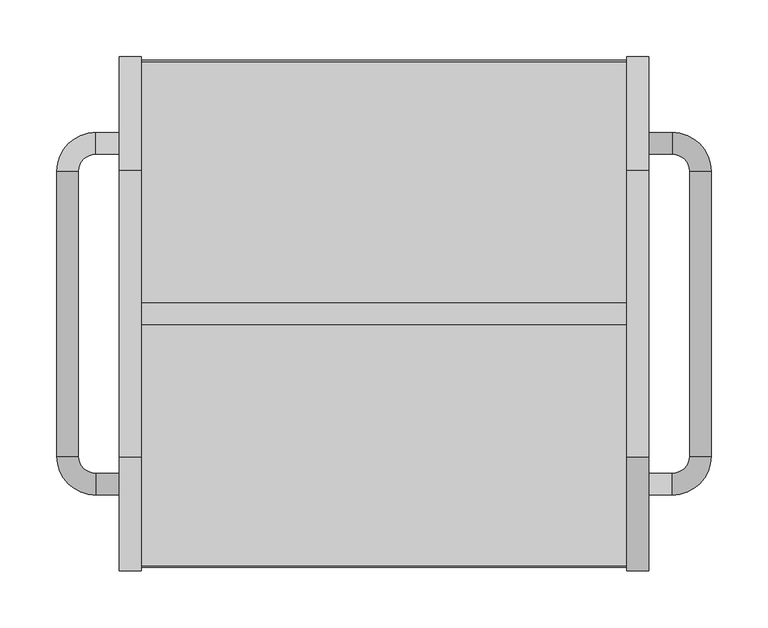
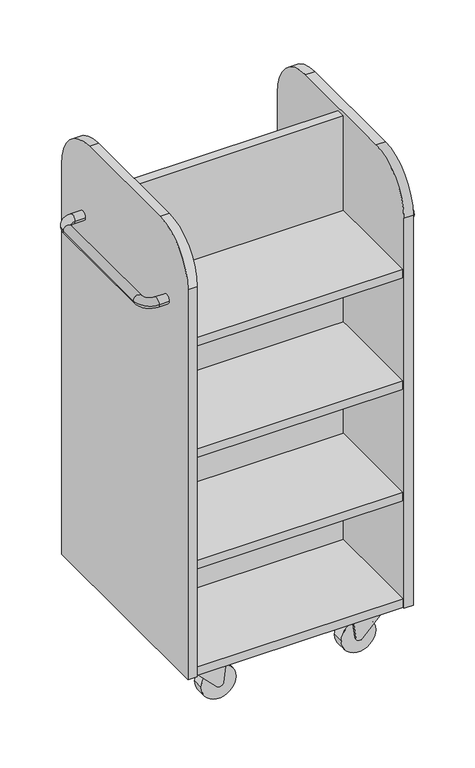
"""IFC4 building model written with IfcOpenShell, lengths in millimetres: furniture geometry, BK Library - Rondus - Book Trolley : BK Library - Rondus - Book Trolley."""

from ifc_helpers import new_model, si_unit, point, frame, frame_2d, origin, place, context, project, spatial, polyline, circle_curve, ellipse_curve, trimmed, segment, composite_curve, outline, extrude, source, transform, mapped, element, save
from ifc_brep_helpers import plane_surface, cylinder_surface, revolved_surface, advanced_brep


def furniture_b9f6d223(model_context):
    return source(origin(), model_context, "Body", "SolidModel", [
        extrude(outline(composite_curve([segment(polyline([(-225.9999765, 97.0), (-225.9999765, 947.0075684)]), True, "CONTINUOUS"), segment(trimmed(circle_curve(frame_2d((-125.9999765, 947.0075684)), 100.0), [point((-225.9999765, 947.0075684))], [point((-125.9999765, 1047.0075684))], False, "CARTESIAN"), True, "CONTINUOUS"), segment(polyline([(-125.9999765, 1047.0075684), (126.0000235, 1047.0075684)]), True, "CONTINUOUS"), segment(trimmed(circle_curve(frame_2d((126.0000235, 947.0075684)), 100.0), [point((126.0000235, 1047.0075684))], [point((226.0000235, 947.0075684))], False, "CARTESIAN"), True, "CONTINUOUS"), segment(polyline([(226.0000235, 947.0075684), (226.0000235, 97.0), (-225.9999765, 97.0)]), True, "CONTINUOUS")], self_intersect=False)), frame((213.5, 0.0, 0.0), z_axis=(1.0, 0.0, 0.0), x_axis=(0.0, 1.0, 0.0)), (0.0, 0.0, 1.0), 19.0),
        advanced_brep(
        [(232.5, 140.4384335, 882.0008812), (232.5, 159.4384335, 882.0008812), (253.5383998, 159.4384335, 882.0008812), (253.5383998, 140.4384335, 882.0008812), (268.5383998, 125.4384335, 882.0008812), (287.5383998, 125.4384335, 882.0008812), (287.5383998, -125.4384335, 882.0008812), (268.5383998, -125.4384335, 882.0008812), (253.5383998, -140.4384335, 882.0008812), (253.5383998, -159.4384335, 882.0008812), (232.5, -140.4384335, 882.0008812), (232.5, -159.4384335, 882.0008812)],
        [
            (0, 1, circle_curve(frame((232.5, 149.9384335, 882.0008812), z_axis=(-1.0, 0.0, 0.0), x_axis=(0.0, 1.0, 0.0)), 9.5)),
            (1, 0, circle_curve(frame((232.5, 149.9384335, 882.0008812), z_axis=(-1.0, 0.0, 0.0), x_axis=(0.0, 1.0, 0.0)), 9.5)),
            (1, 2),
            (2, 3, circle_curve(frame((253.5383998, 149.9384335, 882.0008812), z_axis=(-1.0, 0.0, 0.0), x_axis=(0.0, 1.0, 0.0)), 9.5)),
            (3, 0),
            (3, 2, circle_curve(frame((253.5383998, 149.9384335, 882.0008812), z_axis=(-1.0, 0.0, 0.0), x_axis=(0.0, 1.0, 0.0)), 9.5)),
            (4, 3, circle_curve(frame((253.5383998, 125.4384335, 882.0008812), z_axis=(0.0, 0.0, 1.0), x_axis=(0.0, 1.0, 0.0)), 15.0)),
            (2, 5, circle_curve(frame((253.5383998, 125.4384335, 882.0008812), z_axis=(0.0, 0.0, -1.0), x_axis=(0.0, 1.0, 0.0)), 34.0)),
            (5, 4, circle_curve(frame((278.0383998, 125.4384335, 882.0008812), z_axis=(0.0, 1.0, 0.0), x_axis=(1.0, 0.0, 0.0)), 9.5)),
            (4, 5, circle_curve(frame((278.0383998, 125.4384335, 882.0008812), z_axis=(0.0, 1.0, 0.0), x_axis=(1.0, 0.0, 0.0)), 9.5)),
            (5, 6),
            (6, 7, circle_curve(frame((278.0383998, -125.4384335, 882.0008812), z_axis=(0.0, 1.0, 0.0), x_axis=(1.0, 0.0, 0.0)), 9.5)),
            (7, 4),
            (7, 6, circle_curve(frame((278.0383998, -125.4384335, 882.0008812), z_axis=(0.0, 1.0, 0.0), x_axis=(1.0, 0.0, 0.0)), 9.5)),
            (8, 7, circle_curve(frame((253.5383998, -125.4384335, 882.0008812), z_axis=(0.0, 0.0, 1.0), x_axis=(1.0, 0.0, 0.0)), 15.0)),
            (6, 9, circle_curve(frame((253.5383998, -125.4384335, 882.0008812), z_axis=(0.0, 0.0, -1.0), x_axis=(1.0, 0.0, 0.0)), 34.0)),
            (9, 8, circle_curve(frame((253.5383998, -149.9384335, 882.0008812), z_axis=(1.0, 0.0, 0.0), x_axis=(0.0, -1.0, 0.0)), 9.5)),
            (8, 9, circle_curve(frame((253.5383998, -149.9384335, 882.0008812), z_axis=(1.0, 0.0, 0.0), x_axis=(0.0, -1.0, 0.0)), 9.5)),
            (10, 11, circle_curve(frame((232.5, -149.9384335, 882.0008812), z_axis=(-1.0, 0.0, 0.0), x_axis=(0.0, -1.0, 0.0)), 9.5)),
            (11, 10, circle_curve(frame((232.5, -149.9384335, 882.0008812), z_axis=(-1.0, 0.0, 0.0), x_axis=(0.0, -1.0, 0.0)), 9.5)),
            (9, 11),
            (10, 8),
        ],
        [
            plane_surface(frame((232.5, 140.4384335, 0.0), z_axis=(-1.0, 0.0, 0.0), x_axis=(0.0, 0.0, 1.0))),
            cylinder_surface(frame((232.5, 149.9384335, 882.0008812), z_axis=(-1.0, 0.0, 0.0), x_axis=(0.0, 1.0, 0.0)), 9.5),
            revolved_surface(trimmed(ellipse_curve(frame((253.5383998, 149.9384335, 882.0008812), z_axis=(-1.0, 0.0, 0.0), x_axis=(0.0, 1.0, 0.0)), 9.5, 9.5), [point((253.5383998, 159.4384335, 882.0008812))], [point((253.5383998, 140.4384335, 882.0008812))], True, "CARTESIAN"), (253.5383998, 125.4384335, 0.0), (0.0, 0.0, -1.0)),
            revolved_surface(trimmed(ellipse_curve(frame((253.5383998, 149.9384335, 882.0008812), z_axis=(-1.0, 0.0, 0.0), x_axis=(0.0, 1.0, 0.0)), 9.5, 9.5), [point((253.5383998, 140.4384335, 882.0008812))], [point((253.5383998, 159.4384335, 882.0008812))], True, "CARTESIAN"), (253.5383998, 125.4384335, 0.0), (0.0, 0.0, -1.0)),
            cylinder_surface(frame((278.0383998, 125.4384335, 882.0008812), z_axis=(0.0, 1.0, 0.0), x_axis=(1.0, 0.0, 0.0)), 9.5),
            revolved_surface(trimmed(ellipse_curve(frame((278.0383998, -125.4384335, 882.0008812), z_axis=(0.0, 1.0, 0.0), x_axis=(1.0, 0.0, 0.0)), 9.5, 9.5), [point((287.5383998, -125.4384335, 882.0008812))], [point((268.5383998, -125.4384335, 882.0008812))], True, "CARTESIAN"), (253.5383998, -125.4384335, 0.0), (0.0, 0.0, -1.0)),
            revolved_surface(trimmed(ellipse_curve(frame((278.0383998, -125.4384335, 882.0008812), z_axis=(0.0, 1.0, 0.0), x_axis=(1.0, 0.0, 0.0)), 9.5, 9.5), [point((268.5383998, -125.4384335, 882.0008812))], [point((287.5383998, -125.4384335, 882.0008812))], True, "CARTESIAN"), (253.5383998, -125.4384335, 0.0), (0.0, 0.0, -1.0)),
            plane_surface(frame((232.5, -140.4384335, 0.0), z_axis=(-1.0, 0.0, 0.0), x_axis=(0.0, 0.0, 1.0))),
            cylinder_surface(frame((253.5383998, -149.9384335, 882.0008812), z_axis=(1.0, 0.0, 0.0), x_axis=(0.0, -1.0, 0.0)), 9.5),
        ],
        [
            (0, [[1, 2]]),
            (1, [[-2, 3, 4, 5]]),
            (1, [[-1, -5, 6, -3]]),
            (2, [[7, -4, 8, 9]]),
            (3, [[-8, -6, -7, 10]]),
            (4, [[-9, 11, 12, 13]]),
            (4, [[-10, -13, 14, -11]]),
            (5, [[15, -12, 16, 17]]),
            (6, [[-16, -14, -15, 18]]),
            (7, [[19, 20]]),
            (8, [[-17, 21, -19, 22]]),
            (8, [[-18, -22, -20, -21]]),
        ],
    ),
        advanced_brep(
        [(-232.5, 159.4384335, 882.0008812), (-232.5, 140.4384335, 882.0008812), (-253.5383998, 159.4384335, 882.0008812), (-253.5383998, 140.4384335, 882.0008812), (-268.5383998, 125.4384335, 882.0008812), (-287.5383998, 125.4384335, 882.0008812), (-287.5383998, -125.4384335, 882.0008812), (-268.5383998, -125.4384335, 882.0008812), (-253.5383998, -140.4384335, 882.0008812), (-253.5383998, -159.4384335, 882.0008812), (-232.5, -159.4384335, 882.0008812), (-232.5, -140.4384335, 882.0008812)],
        [
            (0, 1, circle_curve(frame((-232.5, 149.9384335, 882.0008812), z_axis=(1.0, 0.0, 0.0), x_axis=(0.0, -1.0, 0.0)), 9.5)),
            (1, 0, circle_curve(frame((-232.5, 149.9384335, 882.0008812), z_axis=(1.0, 0.0, 0.0), x_axis=(0.0, -1.0, 0.0)), 9.5)),
            (0, 2),
            (2, 3, circle_curve(frame((-253.5383998, 149.9384335, 882.0008812), z_axis=(1.0, 0.0, 0.0), x_axis=(0.0, -1.0, 0.0)), 9.5)),
            (3, 1),
            (3, 2, circle_curve(frame((-253.5383998, 149.9384335, 882.0008812), z_axis=(1.0, 0.0, 0.0), x_axis=(0.0, -1.0, 0.0)), 9.5)),
            (4, 3, circle_curve(frame((-253.5383998, 125.4384335, 882.0008812), z_axis=(0.0, 0.0, -1.0), x_axis=(0.0, 1.0, 0.0)), 15.0)),
            (2, 5, circle_curve(frame((-253.5383998, 125.4384335, 882.0008812), z_axis=(0.0, 0.0, 1.0), x_axis=(0.0, 1.0, 0.0)), 34.0)),
            (5, 4, circle_curve(frame((-278.0383998, 125.4384335, 882.0008812), z_axis=(0.0, 1.0, 0.0), x_axis=(1.0, 0.0, 0.0)), 9.5)),
            (4, 5, circle_curve(frame((-278.0383998, 125.4384335, 882.0008812), z_axis=(0.0, 1.0, 0.0), x_axis=(1.0, 0.0, 0.0)), 9.5)),
            (5, 6),
            (6, 7, circle_curve(frame((-278.0383998, -125.4384335, 882.0008812), z_axis=(0.0, 1.0, 0.0), x_axis=(1.0, 0.0, 0.0)), 9.5)),
            (7, 4),
            (7, 6, circle_curve(frame((-278.0383998, -125.4384335, 882.0008812), z_axis=(0.0, 1.0, 0.0), x_axis=(1.0, 0.0, 0.0)), 9.5)),
            (8, 7, circle_curve(frame((-253.5383998, -125.4384335, 882.0008812), z_axis=(0.0, 0.0, -1.0), x_axis=(-1.0, 0.0, 0.0)), 15.0)),
            (6, 9, circle_curve(frame((-253.5383998, -125.4384335, 882.0008812), z_axis=(0.0, 0.0, 1.0), x_axis=(-1.0, 0.0, 0.0)), 34.0)),
            (9, 8, circle_curve(frame((-253.5383998, -149.9384335, 882.0008812), z_axis=(-1.0, 0.0, 0.0), x_axis=(0.0, 1.0, 0.0)), 9.5)),
            (8, 9, circle_curve(frame((-253.5383998, -149.9384335, 882.0008812), z_axis=(-1.0, 0.0, 0.0), x_axis=(0.0, 1.0, 0.0)), 9.5)),
            (10, 11, circle_curve(frame((-232.5, -149.9384335, 882.0008812), z_axis=(1.0, 0.0, 0.0), x_axis=(0.0, 1.0, 0.0)), 9.5)),
            (11, 10, circle_curve(frame((-232.5, -149.9384335, 882.0008812), z_axis=(1.0, 0.0, 0.0), x_axis=(0.0, 1.0, 0.0)), 9.5)),
            (9, 10),
            (11, 8),
        ],
        [
            plane_surface(frame((-232.5, 140.4384335, 0.0), z_axis=(1.0, 0.0, 0.0), x_axis=(0.0, 0.0, 1.0))),
            cylinder_surface(frame((-232.5, 149.9384335, 882.0008812), z_axis=(1.0, 0.0, 0.0), x_axis=(0.0, -1.0, 0.0)), 9.5),
            revolved_surface(trimmed(ellipse_curve(frame((-253.5383998, 149.9384335, 882.0008812), z_axis=(1.0, 0.0, 0.0), x_axis=(0.0, -1.0, 0.0)), 9.5, 9.5), [point((-253.5383998, 159.4384335, 882.0008812))], [point((-253.5383998, 140.4384335, 882.0008812))], True, "CARTESIAN"), (-253.5383998, 125.4384335, 0.0), (0.0, 0.0, 1.0)),
            revolved_surface(trimmed(ellipse_curve(frame((-253.5383998, 149.9384335, 882.0008812), z_axis=(1.0, 0.0, 0.0), x_axis=(0.0, -1.0, 0.0)), 9.5, 9.5), [point((-253.5383998, 140.4384335, 882.0008812))], [point((-253.5383998, 159.4384335, 882.0008812))], True, "CARTESIAN"), (-253.5383998, 125.4384335, 0.0), (0.0, 0.0, 1.0)),
            cylinder_surface(frame((-278.0383998, 125.4384335, 882.0008812), z_axis=(0.0, 1.0, 0.0), x_axis=(1.0, 0.0, 0.0)), 9.5),
            revolved_surface(trimmed(ellipse_curve(frame((-278.0383998, -125.4384335, 882.0008812), z_axis=(0.0, 1.0, 0.0), x_axis=(1.0, 0.0, 0.0)), 9.5, 9.5), [point((-287.5383998, -125.4384335, 882.0008812))], [point((-268.5383998, -125.4384335, 882.0008812))], True, "CARTESIAN"), (-253.5383998, -125.4384335, 0.0), (0.0, 0.0, 1.0)),
            revolved_surface(trimmed(ellipse_curve(frame((-278.0383998, -125.4384335, 882.0008812), z_axis=(0.0, 1.0, 0.0), x_axis=(1.0, 0.0, 0.0)), 9.5, 9.5), [point((-268.5383998, -125.4384335, 882.0008812))], [point((-287.5383998, -125.4384335, 882.0008812))], True, "CARTESIAN"), (-253.5383998, -125.4384335, 0.0), (0.0, 0.0, 1.0)),
            plane_surface(frame((-232.5, -140.4384335, 0.0), z_axis=(1.0, 0.0, 0.0), x_axis=(0.0, 0.0, 1.0))),
            cylinder_surface(frame((-253.5383998, -149.9384335, 882.0008812), z_axis=(-1.0, 0.0, 0.0), x_axis=(0.0, 1.0, 0.0)), 9.5),
        ],
        [
            (0, [[1, 2]]),
            (1, [[-1, 3, 4, 5]]),
            (1, [[-2, -5, 6, -3]]),
            (2, [[7, -4, 8, 9]]),
            (3, [[-8, -6, -7, 10]]),
            (4, [[-9, 11, 12, 13]]),
            (4, [[-10, -13, 14, -11]]),
            (5, [[15, -12, 16, 17]]),
            (6, [[-16, -14, -15, 18]]),
            (7, [[19, 20]]),
            (8, [[-17, 21, -20, 22]]),
            (8, [[-18, -22, -19, -21]]),
        ],
    ),
        extrude(outline(composite_curve([segment(trimmed(circle_curve(frame_2d((179.5292285, 171.1569734)), 12.5248147), [point((192.0540432, 171.1569734))], [point((167.0044137, 171.1569734))], False, "CARTESIAN"), True, "CONTINUOUS"), segment(trimmed(circle_curve(frame_2d((179.5292285, 171.1569734)), 12.5248147), [point((167.0044137, 171.1569734))], [point((192.0540432, 171.1569734))], False, "CARTESIAN"), True, "CONTINUOUS")], self_intersect=False)), frame((0.0, 0.0, 87.7), z_axis=(0.0, 0.0, 1.0), x_axis=(1.0, 0.0, 0.0)), (0.0, 0.0, 1.0), 9.3),
        extrude(outline(composite_curve([segment(trimmed(circle_curve(frame_2d((72.665374, 116.6185255)), 2.0), [point((72.665374, 114.6185255))], [point((70.6957585, 116.2712291))], False, "CARTESIAN"), True, "CONTINUOUS"), segment(polyline([(70.6957585, 116.2712291), (68.1469989, 130.7259632)]), True, "CONTINUOUS"), segment(trimmed(circle_curve(frame_2d((66.1773834, 130.3786669)), 2.0), [point((68.1469989, 130.7259632))], [point((66.4454242, 132.360624))], True, "CARTESIAN"), True, "CONTINUOUS"), segment(polyline([(66.4454242, 132.360624), (34.4278369, 136.6906969)]), True, "CONTINUOUS"), segment(trimmed(circle_curve(frame_2d((35.5, 144.6185255)), 8.0), [point((34.4278369, 136.6906969))], [point((29.8327739, 150.2649888))], False, "CARTESIAN"), True, "CONTINUOUS"), segment(polyline([(29.8327739, 150.2649888), (80.4985188, 201.1170388), (88.2, 201.1170388), (88.2, 114.6185255), (72.665374, 114.6185255)]), True, "CONTINUOUS")], self_intersect=False)), frame((0.0, 155.1101244, 0.0), z_axis=(0.0, 1.0, 0.0), x_axis=(0.0, 0.0, 1.0)), (0.0, 0.0, 1.0), 32.0),
        extrude(outline(composite_curve([segment(trimmed(circle_curve(frame_2d((35.6872146, 144.5149539)), 35.6947525), [point((35.6872146, 108.8202015))], [point((35.6872146, 180.2097064))], False, "CARTESIAN"), True, "CONTINUOUS"), segment(trimmed(circle_curve(frame_2d((35.6872146, 144.5149539)), 35.6947525), [point((35.6872146, 180.2097064))], [point((35.6872146, 108.8202015))], False, "CARTESIAN"), True, "CONTINUOUS")], self_intersect=False)), frame((0.0, 159.1101244, 0.0), z_axis=(0.0, 1.0, 0.0), x_axis=(0.0, 0.0, 1.0)), (0.0, 0.0, 1.0), 24.0),
        extrude(outline(composite_curve([segment(trimmed(circle_curve(frame_2d((179.5292285, -171.1569734)), 12.5248147), [point((192.0540432, -171.1569734))], [point((167.0044137, -171.1569734))], False, "CARTESIAN"), True, "CONTINUOUS"), segment(trimmed(circle_curve(frame_2d((179.5292285, -171.1569734)), 12.5248147), [point((167.0044137, -171.1569734))], [point((192.0540432, -171.1569734))], False, "CARTESIAN"), True, "CONTINUOUS")], self_intersect=False)), frame((0.0, 0.0, 87.7), z_axis=(0.0, 0.0, 1.0), x_axis=(1.0, 0.0, 0.0)), (0.0, 0.0, 1.0), 9.3),
        extrude(outline(composite_curve([segment(trimmed(circle_curve(frame_2d((72.665374, 116.6185255)), 2.0), [point((72.665374, 114.6185255))], [point((70.6957585, 116.2712291))], False, "CARTESIAN"), True, "CONTINUOUS"), segment(polyline([(70.6957585, 116.2712291), (68.1469989, 130.7259632)]), True, "CONTINUOUS"), segment(trimmed(circle_curve(frame_2d((66.1773834, 130.3786669)), 2.0), [point((68.1469989, 130.7259632))], [point((66.4454242, 132.360624))], True, "CARTESIAN"), True, "CONTINUOUS"), segment(polyline([(66.4454242, 132.360624), (34.4278369, 136.6906969)]), True, "CONTINUOUS"), segment(trimmed(circle_curve(frame_2d((35.5, 144.6185255)), 8.0), [point((34.4278369, 136.6906969))], [point((29.8327739, 150.2649888))], False, "CARTESIAN"), True, "CONTINUOUS"), segment(polyline([(29.8327739, 150.2649888), (80.4985188, 201.1170388), (88.2, 201.1170388), (88.2, 114.6185255), (72.665374, 114.6185255)]), True, "CONTINUOUS")], self_intersect=False)), frame((0.0, -187.1101244, 0.0), z_axis=(0.0, 1.0, 0.0), x_axis=(0.0, 0.0, 1.0)), (0.0, 0.0, 1.0), 32.0),
        extrude(outline(composite_curve([segment(trimmed(circle_curve(frame_2d((35.6872146, 144.5149539)), 35.6947525), [point((35.6872146, 108.8202015))], [point((35.6872146, 180.2097064))], False, "CARTESIAN"), True, "CONTINUOUS"), segment(trimmed(circle_curve(frame_2d((35.6872146, 144.5149539)), 35.6947525), [point((35.6872146, 180.2097064))], [point((35.6872146, 108.8202015))], False, "CARTESIAN"), True, "CONTINUOUS")], self_intersect=False)), frame((0.0, -183.1101244, 0.0), z_axis=(0.0, 1.0, 0.0), x_axis=(0.0, 0.0, 1.0)), (0.0, 0.0, 1.0), 24.0),
        extrude(outline(composite_curve([segment(trimmed(circle_curve(frame_2d((-179.5292285, -171.1569734)), 12.5248147), [point((-192.0540432, -171.1569734))], [point((-167.0044137, -171.1569734))], False, "CARTESIAN"), True, "CONTINUOUS"), segment(trimmed(circle_curve(frame_2d((-179.5292285, -171.1569734)), 12.5248147), [point((-167.0044137, -171.1569734))], [point((-192.0540432, -171.1569734))], False, "CARTESIAN"), True, "CONTINUOUS")], self_intersect=False)), frame((0.0, 0.0, 87.7), z_axis=(0.0, 0.0, 1.0), x_axis=(1.0, 0.0, 0.0)), (0.0, 0.0, 1.0), 9.3),
        extrude(outline(composite_curve([segment(polyline([(72.665374, -114.6185255), (88.2, -114.6185255), (88.2, -201.1170388), (80.4985188, -201.1170388), (29.8327739, -150.2649888)]), True, "CONTINUOUS"), segment(trimmed(circle_curve(frame_2d((35.5, -144.6185255)), 8.0), [point((29.8327739, -150.2649888))], [point((34.4278369, -136.6906969))], False, "CARTESIAN"), True, "CONTINUOUS"), segment(polyline([(34.4278369, -136.6906969), (66.4454242, -132.360624)]), True, "CONTINUOUS"), segment(trimmed(circle_curve(frame_2d((66.1773834, -130.3786669)), 2.0), [point((66.4454242, -132.360624))], [point((68.1469989, -130.7259632))], True, "CARTESIAN"), True, "CONTINUOUS"), segment(polyline([(68.1469989, -130.7259632), (70.6957585, -116.2712291)]), True, "CONTINUOUS"), segment(trimmed(circle_curve(frame_2d((72.665374, -116.6185255)), 2.0), [point((70.6957585, -116.2712291))], [point((72.665374, -114.6185255))], False, "CARTESIAN"), True, "CONTINUOUS")], self_intersect=False)), frame((0.0, -187.1101244, 0.0), z_axis=(0.0, 1.0, 0.0), x_axis=(0.0, 0.0, 1.0)), (0.0, 0.0, 1.0), 32.0),
        extrude(outline(composite_curve([segment(trimmed(circle_curve(frame_2d((35.6872146, -144.5149539)), 35.6947525), [point((35.6872146, -108.8202015))], [point((35.6872146, -180.2097064))], False, "CARTESIAN"), True, "CONTINUOUS"), segment(trimmed(circle_curve(frame_2d((35.6872146, -144.5149539)), 35.6947525), [point((35.6872146, -180.2097064))], [point((35.6872146, -108.8202015))], False, "CARTESIAN"), True, "CONTINUOUS")], self_intersect=False)), frame((0.0, -183.1101244, 0.0), z_axis=(0.0, 1.0, 0.0), x_axis=(0.0, 0.0, 1.0)), (0.0, 0.0, 1.0), 24.0),
        extrude(outline(composite_curve([segment(trimmed(circle_curve(frame_2d((-179.5292285, 171.1569734)), 12.5248147), [point((-192.0540432, 171.1569734))], [point((-167.0044137, 171.1569734))], False, "CARTESIAN"), True, "CONTINUOUS"), segment(trimmed(circle_curve(frame_2d((-179.5292285, 171.1569734)), 12.5248147), [point((-167.0044137, 171.1569734))], [point((-192.0540432, 171.1569734))], False, "CARTESIAN"), True, "CONTINUOUS")], self_intersect=False)), frame((0.0, 0.0, 87.7), z_axis=(0.0, 0.0, 1.0), x_axis=(1.0, 0.0, 0.0)), (0.0, 0.0, 1.0), 9.3),
        extrude(outline(composite_curve([segment(polyline([(72.665374, -114.6185255), (88.2, -114.6185255), (88.2, -201.1170388), (80.4985188, -201.1170388), (29.8327739, -150.2649888)]), True, "CONTINUOUS"), segment(trimmed(circle_curve(frame_2d((35.5, -144.6185255)), 8.0), [point((29.8327739, -150.2649888))], [point((34.4278369, -136.6906969))], False, "CARTESIAN"), True, "CONTINUOUS"), segment(polyline([(34.4278369, -136.6906969), (66.4454242, -132.360624)]), True, "CONTINUOUS"), segment(trimmed(circle_curve(frame_2d((66.1773834, -130.3786669)), 2.0), [point((66.4454242, -132.360624))], [point((68.1469989, -130.7259632))], True, "CARTESIAN"), True, "CONTINUOUS"), segment(polyline([(68.1469989, -130.7259632), (70.6957585, -116.2712291)]), True, "CONTINUOUS"), segment(trimmed(circle_curve(frame_2d((72.665374, -116.6185255)), 2.0), [point((70.6957585, -116.2712291))], [point((72.665374, -114.6185255))], False, "CARTESIAN"), True, "CONTINUOUS")], self_intersect=False)), frame((0.0, 155.1101244, 0.0), z_axis=(0.0, 1.0, 0.0), x_axis=(0.0, 0.0, 1.0)), (0.0, 0.0, 1.0), 32.0),
        extrude(outline(composite_curve([segment(trimmed(circle_curve(frame_2d((35.6872146, -144.5149539)), 35.6947525), [point((35.6872146, -108.8202015))], [point((35.6872146, -180.2097064))], False, "CARTESIAN"), True, "CONTINUOUS"), segment(trimmed(circle_curve(frame_2d((35.6872146, -144.5149539)), 35.6947525), [point((35.6872146, -180.2097064))], [point((35.6872146, -108.8202015))], False, "CARTESIAN"), True, "CONTINUOUS")], self_intersect=False)), frame((0.0, 159.1101244, 0.0), z_axis=(0.0, 1.0, 0.0), x_axis=(0.0, 0.0, 1.0)), (0.0, 0.0, 1.0), 24.0),
        advanced_brep(
        [(-213.5, 226.0000235, 97.0), (-213.5, 226.0000235, 947.0075684), (-213.5, 126.0000235, 1047.0075684), (-213.5, -125.9999765, 1047.0075684), (-213.5, -225.9999765, 947.0075684), (-213.5, -225.9999765, 97.0), (-213.5, -222.9999765, 97.0), (-213.5, -222.9999765, 116.0075684), (-213.5, -9.5000235, 116.0075684), (-213.5, -9.5000235, 328.5075684), (-213.5, -221.5000235, 328.5075684), (-213.5, -221.5000235, 347.5075684), (-213.5, -9.5000235, 347.5075684), (-213.5, -9.5000235, 571.5075684), (-213.5, -221.5000235, 571.5075684), (-213.5, -221.5000235, 590.5075684), (-213.5, -9.5000235, 590.5075684), (-213.5, -9.5000235, 814.5075684), (-213.5, -221.5000235, 814.5075684), (-213.5, -221.5000235, 833.5075684), (-213.5, -9.4999765, 833.5075684), (-213.5, -9.4999765, 1039.0075684), (-213.5, 9.5000235, 1039.0075684), (-213.5, 9.5000235, 833.5075684), (-213.5, 221.5000235, 833.5075684), (-213.5, 221.5000235, 814.5075684), (-213.5, 9.5000235, 814.5075684), (-213.5, 9.5000235, 590.5075684), (-213.5, 221.5000235, 590.5075684), (-213.5, 221.5000235, 571.5075684), (-213.5, 9.5000235, 571.5075684), (-213.5, 9.5000235, 347.5075684), (-213.5, 221.5000235, 347.5075684), (-213.5, 221.5000235, 328.5075684), (-213.5, 9.5000235, 328.5075684), (-213.5, 9.5000235, 116.0075684), (-213.5, 223.0000235, 116.0075684), (-213.5, 223.0000235, 97.0), (-232.5, -225.9999765, 97.0), (-232.5, -225.9999765, 947.0075684), (-232.5, -125.9999765, 1047.0075684), (-232.5, 126.0000235, 1047.0075684), (-232.5, 226.0000235, 947.0075684), (-232.5, 226.0000235, 97.0), (213.5, 223.0000235, 97.0), (213.5, -222.9999765, 97.0), (213.5, 9.5000235, 1039.0075684), (213.5, -9.4999765, 1039.0075684), (213.5, -9.4999765, 833.5075684), (213.5, -221.5000235, 833.5075684), (213.5, -221.5000235, 814.5075684), (213.5, -9.5000235, 814.5075684), (213.5, -9.5000235, 590.5075684), (213.5, -221.5000235, 590.5075684), (213.5, -221.5000235, 571.5075684), (213.5, -9.5000235, 571.5075684), (213.5, -9.5000235, 347.5075684), (213.5, -221.5000235, 347.5075684), (213.5, -221.5000235, 328.5075684), (213.5, -9.5000235, 328.5075684), (213.5, -9.5000235, 116.0075684), (213.5, -222.9999765, 116.0075684), (213.5, 223.0000235, 116.0075684), (213.5, 9.5000235, 116.0075684), (213.5, 9.5000235, 328.5075684), (213.5, 221.5000235, 328.5075684), (213.5, 221.5000235, 347.5075684), (213.5, 9.5000235, 347.5075684), (213.5, 9.5000235, 571.5075684), (213.5, 221.5000235, 571.5075684), (213.5, 221.5000235, 590.5075684), (213.5, 9.5000235, 590.5075684), (213.5, 9.5000235, 814.5075684), (213.5, 221.5000235, 814.5075684), (213.5, 221.5000235, 833.5075684), (213.5, 9.5000235, 833.5075684)],
        [
            (0, 1),
            (1, 2, circle_curve(frame((-213.5, 126.0000235, 947.0075684), z_axis=(1.0, 0.0, 0.0), x_axis=(0.0, 1.0, 0.0)), 100.0)),
            (2, 3),
            (3, 4, circle_curve(frame((-213.5, -125.9999765, 947.0075684), z_axis=(1.0, 0.0, 0.0), x_axis=(0.0, 1.0, 0.0)), 100.0)),
            (4, 5),
            (5, 6),
            (6, 7),
            (7, 8),
            (8, 9),
            (9, 10),
            (10, 11),
            (11, 12),
            (12, 13),
            (13, 14),
            (14, 15),
            (15, 16),
            (16, 17),
            (17, 18),
            (18, 19),
            (19, 20),
            (20, 21),
            (21, 22),
            (22, 23),
            (23, 24),
            (24, 25),
            (25, 26),
            (26, 27),
            (27, 28),
            (28, 29),
            (29, 30),
            (30, 31),
            (31, 32),
            (32, 33),
            (33, 34),
            (34, 35),
            (35, 36),
            (36, 37),
            (37, 0),
            (38, 39),
            (39, 40, circle_curve(frame((-232.5, -125.9999765, 947.0075684), z_axis=(-1.0, 0.0, 0.0), x_axis=(0.0, 1.0, 0.0)), 100.0)),
            (40, 41),
            (41, 42, circle_curve(frame((-232.5, 126.0000235, 947.0075684), z_axis=(-1.0, 0.0, 0.0), x_axis=(0.0, 1.0, 0.0)), 100.0)),
            (42, 43),
            (43, 38),
            (43, 0),
            (37, 44),
            (44, 45),
            (45, 6),
            (5, 38),
            (42, 1),
            (2, 41),
            (40, 3),
            (4, 39),
            (46, 47),
            (47, 48),
            (48, 49),
            (49, 50),
            (50, 51),
            (51, 52),
            (52, 53),
            (53, 54),
            (54, 55),
            (55, 56),
            (56, 57),
            (57, 58),
            (58, 59),
            (59, 60),
            (60, 61),
            (61, 45),
            (44, 62),
            (62, 63),
            (63, 64),
            (64, 65),
            (65, 66),
            (66, 67),
            (67, 68),
            (68, 69),
            (69, 70),
            (70, 71),
            (71, 72),
            (72, 73),
            (73, 74),
            (74, 75),
            (75, 46),
            (46, 22),
            (21, 47),
            (20, 48),
            (19, 49),
            (18, 50),
            (17, 51),
            (16, 52),
            (15, 53),
            (14, 54),
            (13, 55),
            (12, 56),
            (11, 57),
            (10, 58),
            (9, 59),
            (8, 60),
            (7, 61),
            (36, 62),
            (35, 63),
            (34, 64),
            (33, 65),
            (32, 66),
            (31, 67),
            (30, 68),
            (29, 69),
            (28, 70),
            (27, 71),
            (26, 72),
            (25, 73),
            (24, 74),
            (23, 75),
        ],
        [
            plane_surface(frame((-213.5, 201.5, 97.0), z_axis=(1.0, 0.0, 0.0), x_axis=(0.0, 1.0, 0.0))),
            plane_surface(frame((-232.5, 201.5, 97.0), z_axis=(-1.0, 0.0, 0.0), x_axis=(0.0, -1.0, 0.0))),
            plane_surface(frame((-213.5, -225.9999765, 97.0), z_axis=(0.0, 0.0, -1.0), x_axis=(-1.0, 0.0, 0.0))),
            plane_surface(frame((-213.5, 226.0000235, 97.0), z_axis=(0.0, 1.0, 0.0), x_axis=(-1.0, 0.0, 0.0))),
            plane_surface(frame((-213.5, 126.0000235, 1047.0075684), z_axis=(0.0, 0.0, 1.0), x_axis=(-1.0, 0.0, 0.0))),
            plane_surface(frame((-213.5, -225.9999765, 947.0075684), z_axis=(0.0, -1.0, 0.0), x_axis=(-1.0, 0.0, 0.0))),
            plane_surface(frame((213.5, 9.5000235, 1039.0075684), z_axis=(1.0, 0.0, 0.0), x_axis=(0.0, -1.0, 0.0))),
            cylinder_surface(frame((-232.5, 126.0000235, 947.0075684), z_axis=(1.0, 0.0, 0.0), x_axis=(0.0, 1.0, 0.0)), 100.0),
            cylinder_surface(frame((-232.5, -125.9999765, 947.0075684), z_axis=(1.0, 0.0, 0.0), x_axis=(0.0, 1.0, 0.0)), 100.0),
            plane_surface(frame((213.5, 9.5000235, 1039.0075684), z_axis=(0.0, 0.0, 1.0), x_axis=(-1.0, 0.0, 0.0))),
            plane_surface(frame((213.5, -9.4999765, 1039.0075684), z_axis=(0.0, -1.0, 0.0), x_axis=(-1.0, 0.0, 0.0))),
            plane_surface(frame((213.5, -9.4999765, 833.5075684), z_axis=(0.0, 0.0, 1.0), x_axis=(-1.0, 0.0, 0.0))),
            plane_surface(frame((213.5, -221.5000235, 833.5075684), z_axis=(0.0, -1.0, 0.0), x_axis=(-1.0, 0.0, 0.0))),
            plane_surface(frame((213.5, -221.5000235, 814.5075684), z_axis=(0.0, 0.0, -1.0), x_axis=(-1.0, 0.0, 0.0))),
            plane_surface(frame((213.5, -9.5000235, 814.5075684), z_axis=(0.0, -1.0, 0.0), x_axis=(-1.0, 0.0, 0.0))),
            plane_surface(frame((213.5, -9.5000235, 590.5075684), z_axis=(0.0, 0.0, 1.0), x_axis=(-1.0, 0.0, 0.0))),
            plane_surface(frame((213.5, -221.5000235, 590.5075684), z_axis=(0.0, -1.0, 0.0), x_axis=(-1.0, 0.0, 0.0))),
            plane_surface(frame((213.5, -221.5000235, 571.5075684), z_axis=(0.0, 0.0, -1.0), x_axis=(-1.0, 0.0, 0.0))),
            plane_surface(frame((213.5, -9.5000235, 571.5075684), z_axis=(0.0, -1.0, 0.0), x_axis=(-1.0, 0.0, 0.0))),
            plane_surface(frame((213.5, -9.5000235, 347.5075684), z_axis=(0.0, 0.0, 1.0), x_axis=(-1.0, 0.0, 0.0))),
            plane_surface(frame((213.5, -221.5000235, 347.5075684), z_axis=(0.0, -1.0, 0.0), x_axis=(-1.0, 0.0, 0.0))),
            plane_surface(frame((213.5, -221.5000235, 328.5075684), z_axis=(0.0, 0.0, -1.0), x_axis=(-1.0, 0.0, 0.0))),
            plane_surface(frame((213.5, -9.5000235, 328.5075684), z_axis=(0.0, -1.0, 0.0), x_axis=(-1.0, 0.0, 0.0))),
            plane_surface(frame((213.5, -9.5000235, 116.0075684), z_axis=(0.0, 0.0, 1.0), x_axis=(-1.0, 0.0, 0.0))),
            plane_surface(frame((213.5, -222.9999765, 116.0075684), z_axis=(0.0, -1.0, 0.0), x_axis=(-1.0, 0.0, 0.0))),
            plane_surface(frame((213.5, 223.0000235, 97.0075684), z_axis=(0.0, 1.0, 0.0), x_axis=(-1.0, 0.0, 0.0))),
            plane_surface(frame((213.5, 223.0000235, 116.0075684), z_axis=(0.0, 0.0, 1.0), x_axis=(-1.0, 0.0, 0.0))),
            plane_surface(frame((213.5, 9.5000235, 116.0075684), z_axis=(0.0, 1.0, 0.0), x_axis=(-1.0, 0.0, 0.0))),
            plane_surface(frame((213.5, 9.5000235, 328.5075684), z_axis=(0.0, 0.0, -1.0), x_axis=(-1.0, 0.0, 0.0))),
            plane_surface(frame((213.5, 221.5000235, 328.5075684), z_axis=(0.0, 1.0, 0.0), x_axis=(-1.0, 0.0, 0.0))),
            plane_surface(frame((213.5, 221.5000235, 347.5075684), z_axis=(0.0, 0.0, 1.0), x_axis=(-1.0, 0.0, 0.0))),
            plane_surface(frame((213.5, 9.5000235, 347.5075684), z_axis=(0.0, 1.0, 0.0), x_axis=(-1.0, 0.0, 0.0))),
            plane_surface(frame((213.5, 9.5000235, 571.5075684), z_axis=(0.0, 0.0, -1.0), x_axis=(-1.0, 0.0, 0.0))),
            plane_surface(frame((213.5, 221.5000235, 571.5075684), z_axis=(0.0, 1.0, 0.0), x_axis=(-1.0, 0.0, 0.0))),
            plane_surface(frame((213.5, 221.5000235, 590.5075684), z_axis=(0.0, 0.0, 1.0), x_axis=(-1.0, 0.0, 0.0))),
            plane_surface(frame((213.5, 9.5000235, 590.5075684), z_axis=(0.0, 1.0, 0.0), x_axis=(-1.0, 0.0, 0.0))),
            plane_surface(frame((213.5, 9.5000235, 814.5075684), z_axis=(0.0, 0.0, -1.0), x_axis=(-1.0, 0.0, 0.0))),
            plane_surface(frame((213.5, 221.5000235, 814.5075684), z_axis=(0.0, 1.0, 0.0), x_axis=(-1.0, 0.0, 0.0))),
            plane_surface(frame((213.5, 221.5000235, 833.5075684), z_axis=(0.0, 0.0, 1.0), x_axis=(-1.0, 0.0, 0.0))),
            plane_surface(frame((213.5, 9.5000235, 833.5075684), z_axis=(0.0, 1.0, 0.0), x_axis=(-1.0, 0.0, 0.0))),
        ],
        [
            (0, [[1, 2, 3, 4, 5, 6, 7, 8, 9, 10, 11, 12, 13, 14, 15, 16, 17, 18, 19, 20, 21, 22, 23, 24, 25, 26, 27, 28, 29, 30, 31, 32, 33, 34, 35, 36, 37, 38]]),
            (1, [[39, 40, 41, 42, 43, 44]]),
            (2, [[-44, 45, -38, 46, 47, 48, -6, 49]]),
            (3, [[-1, -45, -43, 50]]),
            (4, [[-3, 51, -41, 52]]),
            (5, [[-5, 53, -39, -49]]),
            (6, [[54, 55, 56, 57, 58, 59, 60, 61, 62, 63, 64, 65, 66, 67, 68, 69, -47, 70, 71, 72, 73, 74, 75, 76, 77, 78, 79, 80, 81, 82, 83, 84]]),
            (7, [[-2, -50, -42, -51]]),
            (8, [[-4, -52, -40, -53]]),
            (9, [[-54, 85, -22, 86]]),
            (10, [[-55, -86, -21, 87]]),
            (11, [[-56, -87, -20, 88]]),
            (12, [[-57, -88, -19, 89]]),
            (13, [[-58, -89, -18, 90]]),
            (14, [[-59, -90, -17, 91]]),
            (15, [[-60, -91, -16, 92]]),
            (16, [[-61, -92, -15, 93]]),
            (17, [[-62, -93, -14, 94]]),
            (18, [[-63, -94, -13, 95]]),
            (19, [[-64, -95, -12, 96]]),
            (20, [[-65, -96, -11, 97]]),
            (21, [[-66, -97, -10, 98]]),
            (22, [[-67, -98, -9, 99]]),
            (23, [[-68, -99, -8, 100]]),
            (24, [[-69, -100, -7, -48]]),
            (25, [[-70, -46, -37, 101]]),
            (26, [[-71, -101, -36, 102]]),
            (27, [[-72, -102, -35, 103]]),
            (28, [[-73, -103, -34, 104]]),
            (29, [[-74, -104, -33, 105]]),
            (30, [[-75, -105, -32, 106]]),
            (31, [[-76, -106, -31, 107]]),
            (32, [[-77, -107, -30, 108]]),
            (33, [[-78, -108, -29, 109]]),
            (34, [[-79, -109, -28, 110]]),
            (35, [[-80, -110, -27, 111]]),
            (36, [[-81, -111, -26, 112]]),
            (37, [[-82, -112, -25, 113]]),
            (38, [[-83, -113, -24, 114]]),
            (39, [[-84, -114, -23, -85]]),
        ],
    ),
    ])


if __name__ == "__main__":
    model = new_model("IFC4")
    model_context = context("Model", 3, world=origin())
    ifc_project = project(units=[si_unit("LENGTHUNIT", "METRE", prefix="MILLI")], contexts=[model_context])
    site = spatial("IfcSite", under=ifc_project)
    building = spatial("IfcBuilding", under=site)
    placement = place(None, origin())
    furniture_shape = furniture_b9f6d223(model_context)
    element("IfcFurniture", 1, ObjectType="BK Library - Rondus - Book Trolley : BK Library - Rondus - Book Trolley", at=placement, inside=building, context=model_context, shape_type="MappedRepresentation", body=[
        mapped(furniture_shape, transform((0.0, 0.0, 0.0), x_axis=(1.0, 0.0, 0.0), y_axis=(0.0, 1.0, 0.0), z_axis=(0.0, 0.0, 1.0))),
    ])
    save(model, "model.ifc")
